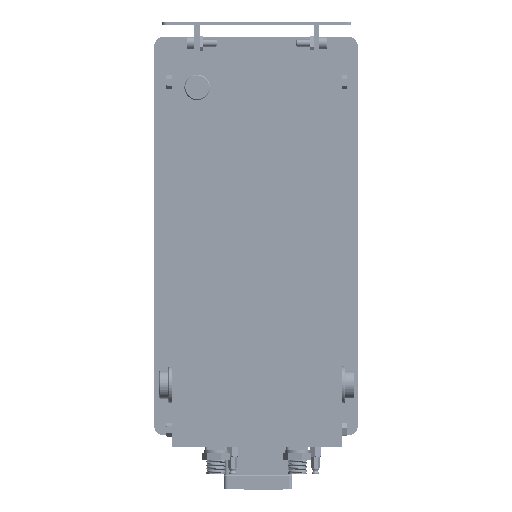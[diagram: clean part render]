
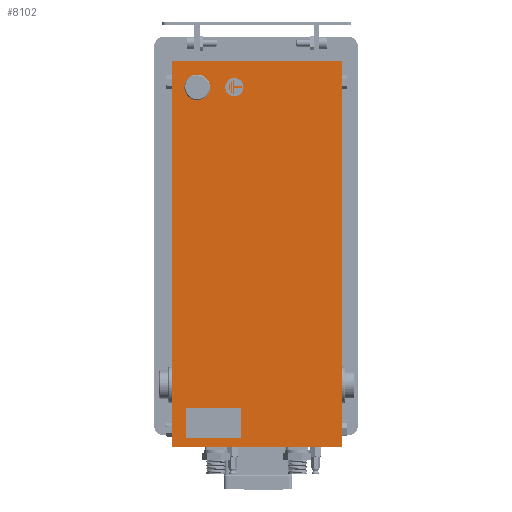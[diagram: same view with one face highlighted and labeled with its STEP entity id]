
A CAD part, left-side view. The second image highlights one B-rep face of the part: STEP entity #8102.
In plain terms, the highlighted planar face has unit normal (-1, 0, 0).
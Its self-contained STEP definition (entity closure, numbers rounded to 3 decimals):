
#8102 = ADVANCED_FACE ( 'NONE', ( #352476 ), #268514, .F. ) ;
#21820 = CARTESIAN_POINT ( 'NONE',  ( -419.968, -70.713, -181.225 ) ) ;
#31091 = VERTEX_POINT ( 'NONE', #120630 ) ;
#32400 = LINE ( 'NONE', #388049, #78210 ) ;
#36043 = EDGE_CURVE ( 'NONE', #163552, #38058, #392899, .T. ) ;
#38058 = VERTEX_POINT ( 'NONE', #401205 ) ;
#40025 = EDGE_CURVE ( 'NONE', #251216, #31091, #32400, .T. ) ;
#65389 = DIRECTION ( 'NONE',  ( 0., 0., -1. ) ) ;
#78210 = VECTOR ( 'NONE', #65389, 1000. ) ;
#89140 = CARTESIAN_POINT ( 'NONE',  ( -419.968, -78.713, 240.775 ) ) ;
#92574 = ORIENTED_EDGE ( 'NONE', *, *, #40025, .T. ) ;
#93198 = ORIENTED_EDGE ( 'NONE', *, *, #226098, .T. ) ;
#107891 = DIRECTION ( 'NONE',  ( 0., 0., -1. ) ) ;
#110170 = LINE ( 'NONE', #117105, #175508 ) ;
#117105 = CARTESIAN_POINT ( 'NONE',  ( -419.968, 107.287, 240.775 ) ) ;
#120630 = CARTESIAN_POINT ( 'NONE',  ( -419.968, 107.287, -181.225 ) ) ;
#160126 = CARTESIAN_POINT ( 'NONE',  ( -419.968, -228.713, -101.225 ) ) ;
#163552 = VERTEX_POINT ( 'NONE', #89140 ) ;
#175508 = VECTOR ( 'NONE', #298447, 1000. ) ;
#180070 = EDGE_LOOP ( 'NONE', ( #93198, #448906, #256619, #92574 ) ) ;
#182212 = AXIS2_PLACEMENT_3D ( 'NONE', #160126, #460814, #303867 ) ;
#182842 = VECTOR ( 'NONE', #107891, 1000. ) ;
#226098 = EDGE_CURVE ( 'NONE', #31091, #38058, #450513, .T. ) ;
#251216 = VERTEX_POINT ( 'NONE', #421456 ) ;
#256619 = ORIENTED_EDGE ( 'NONE', *, *, #261405, .T. ) ;
#261405 = EDGE_CURVE ( 'NONE', #163552, #251216, #110170, .T. ) ;
#268514 = PLANE ( 'NONE',  #182212 ) ;
#298447 = DIRECTION ( 'NONE',  ( 0., 1., 0. ) ) ;
#303867 = DIRECTION ( 'NONE',  ( 0., -1., 0. ) ) ;
#352476 = FACE_OUTER_BOUND ( 'NONE', #180070, .T. ) ;
#388049 = CARTESIAN_POINT ( 'NONE',  ( -419.968, 107.287, 238.775 ) ) ;
#392899 = LINE ( 'NONE', #465890, #182842 ) ;
#401205 = CARTESIAN_POINT ( 'NONE',  ( -419.968, -78.713, -181.225 ) ) ;
#408245 = VECTOR ( 'NONE', #452806, 1000. ) ;
#421456 = CARTESIAN_POINT ( 'NONE',  ( -419.968, 107.287, 240.775 ) ) ;
#448906 = ORIENTED_EDGE ( 'NONE', *, *, #36043, .F. ) ;
#450513 = LINE ( 'NONE', #21820, #408245 ) ;
#452806 = DIRECTION ( 'NONE',  ( 0., -1., 0. ) ) ;
#460814 = DIRECTION ( 'NONE',  ( 1., 0., 0. ) ) ;
#465890 = CARTESIAN_POINT ( 'NONE',  ( -419.968, -78.713, -181.225 ) ) ;
